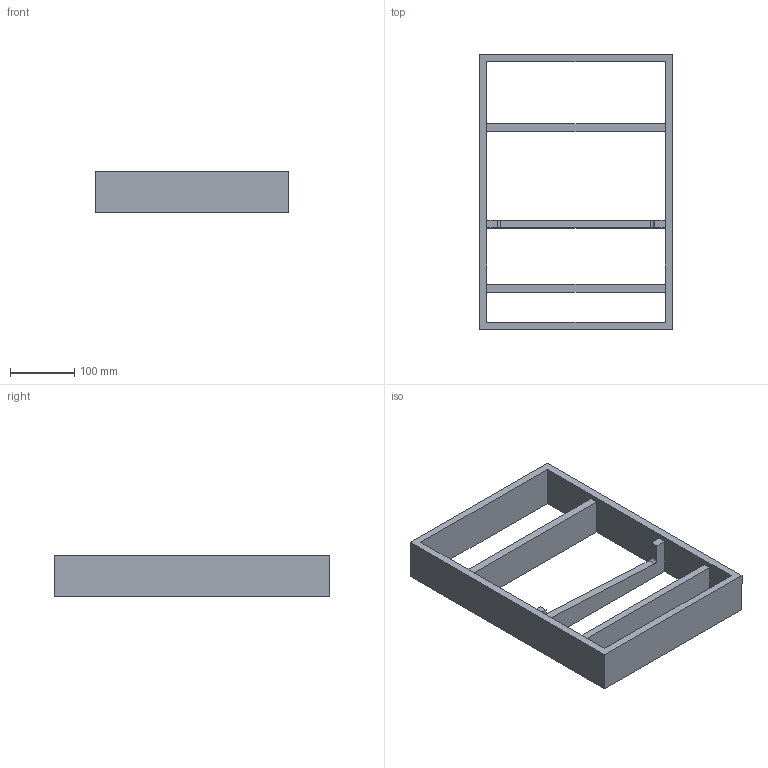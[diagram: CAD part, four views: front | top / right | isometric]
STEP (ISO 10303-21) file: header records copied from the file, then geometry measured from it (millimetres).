
FILE_DESCRIPTION (( 'STEP AP214' ), '1' );
FILE_NAME ('Vario Messer_Modul_H65_NL450_B400_19mm_Alu_Buche.step', '2010-10-07T06:11:43', ( 'grass' ), ( '' ), 'SwSTEP 2.0', 'SolidWorks 2010', '' );
FILE_SCHEMA (( 'AUTOMOTIVE_DESIGN' ));
Length unit declared in the file: millimetre
Products named in the file (1): Vario Messer_Modul_H65_NL450_B400_19mm_Alu_Buche
Bounding box: 302 x 429 x 65 mm (x, y, z)
Volume: 1597377.5 mm3; surface area: 316653.3 mm2
Topology: 1 solids, 1 shells, 25 faces, 78 edges, 52 vertices
Faces by surface type: plane 23, cylinder 2
Entity records: 906 total; most frequent: ORIENTED_EDGE 156, CARTESIAN_POINT 156, DIRECTION 134, EDGE_CURVE 78, LINE 74, VECTOR 74, VERTEX_POINT 52, AXIS2_PLACEMENT_3D 30
